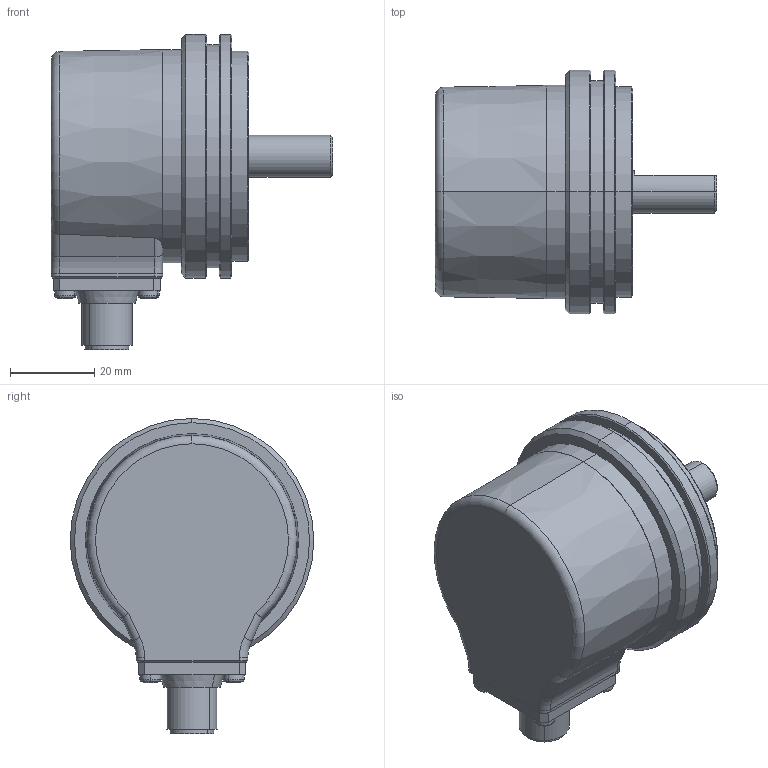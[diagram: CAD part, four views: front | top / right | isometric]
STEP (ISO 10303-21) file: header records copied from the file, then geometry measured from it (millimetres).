
FILE_DESCRIPTION (( 'STEP AP214' ), '1' );
FILE_NAME ('5000.B3X4.XXXX.STEP', '2007-08-03T06:06:24', ( 'DanneckerS' ), ( ' ' ), 'SwSTEP 2.0', 'SolidWorks 2007', '' );
FILE_SCHEMA (( 'AUTOMOTIVE_DESIGN' ));
Length unit declared in the file: millimetre
Products named in the file (1): 5000.B3X4.XXXX
Bounding box: 67 x 58 x 75 mm (x, y, z)
Surface area: 17871.6 mm2 (no closed solid volume)
Topology: 0 solids, 17 shells, 222 faces, 576 edges, 365 vertices
Faces by surface type: plane 88, cylinder 63, sphere 24, torus 22, cone 21, bspline 4
Entity records: 9126 total; most frequent: CARTESIAN_POINT 1290, DIRECTION 1242, ORIENTED_EDGE 1004, EDGE_CURVE 544, AXIS2_PLACEMENT_3D 505, VERTEX_POINT 349, CIRCLE 286, EDGE_LOOP 249
